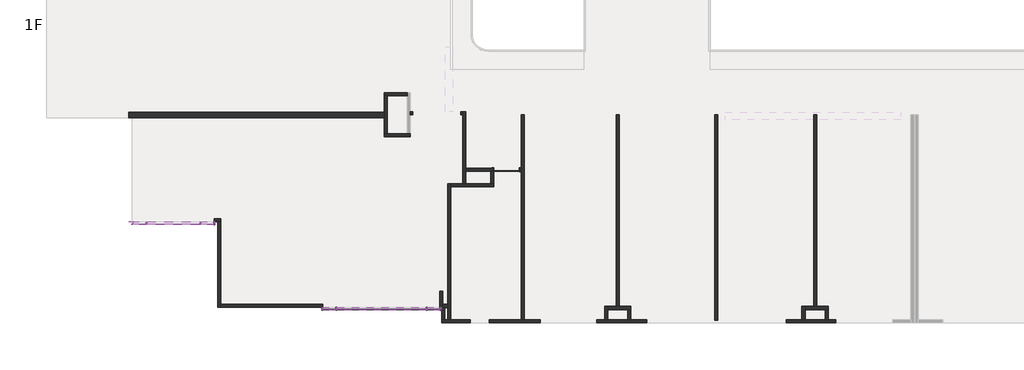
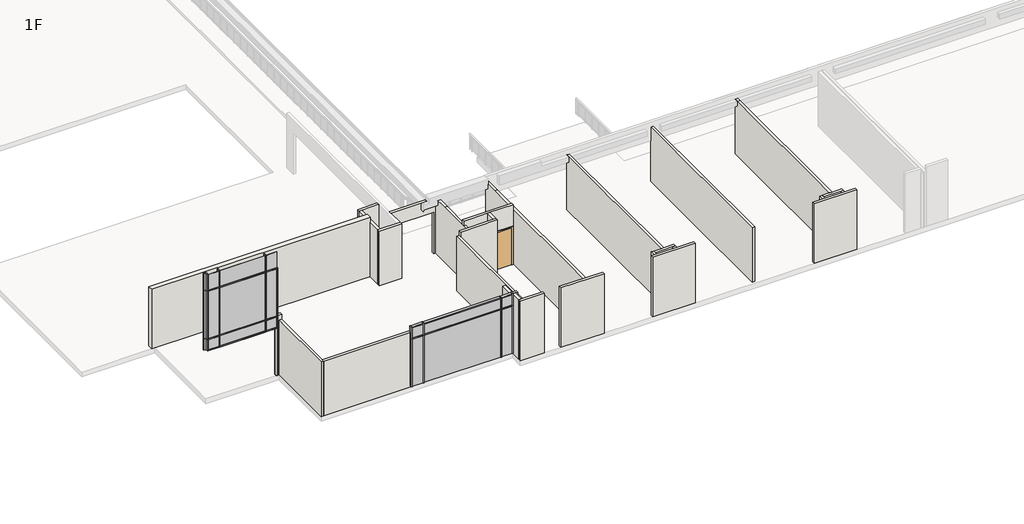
# One storey, part 1 of 5: 37 members, 30 walls, 15 plates, 1 door.
"""IFC4 building model written with IfcOpenShell, lengths in millimetres."""

from ifc_helpers import new_model, si_unit, frame, origin, place, context, project, spatial, polyline, outline, extrude, faceted_brep, transform, mapped, element, save
from components import m_single_flush_d_1200x2150_085a39eb, rectangular_mullion_50_x_150mm_64d38db8, rectangular_mullion_50_x_150mm_68b3818a, rectangular_mullion_50_x_150mm_8786dd09, rectangular_mullion_50_x_150mm_9e0f1e24, rectangular_mullion_50_x_150mm_dbb82e9e, rectangular_mullion_50_x_150mm_b34d1ea9, rectangular_mullion_50_x_150mm_7d543e93, rectangular_mullion_50_x_150mm_edc7ebc1, rectangular_mullion_50_x_150mm_d11e3bb4, rectangular_mullion_50_x_150mm_32aaa733, rectangular_mullion_50_x_150mm_9b8962c0, rectangular_mullion_50_x_150mm_fb6851b2, rectangular_mullion_50_x_150mm_567c0dda, rectangular_mullion_50_x_150mm_bb797b61, v_corner_mullion_v_mullion_1_ba732962, v_corner_mullion_v_mullion_1_1f1fc5c4, v_corner_mullion_v_mullion_1_634ccf5c, system_panel_glazed_24812111, system_panel_glazed_e5239730, system_panel_glazed_6b022301, system_panel_glazed_c925beaf, system_panel_glazed_5b8ccad9, system_panel_glazed_52ea2533, system_panel_glazed_5e053889, system_panel_glazed_b1764f6f

model = new_model("IFC4")

# Units and contexts
model_context = context("Model", 3, world=origin())
ifc_project = project(units=[si_unit("LENGTHUNIT", "METRE", prefix="MILLI")], contexts=[model_context])

# Site, building, storey
site = spatial("IfcSite", under=ifc_project)
building = spatial("IfcBuilding", under=site)
storey = spatial("IfcBuildingStorey", under=building, Name="1F", Elevation=4650.0)

# Door
placement = place(None, origin())
m_single_flush_d_1200x2150_shape = m_single_flush_d_1200x2150_085a39eb(model_context)
element("IfcDoor", 1, ObjectType="M_Single-Flush : D-1200x2150", at=placement, inside=storey, context=model_context, shape_type="MappedRepresentation", body=[
    mapped(m_single_flush_d_1200x2150_shape, transform((-18037.5865899, -18671.6148653, 4650.0), x_axis=(1.0, 0.0, 0.0), y_axis=(0.0, 1.0, 0.0), z_axis=(0.0, 0.0, 1.0))),
])

# Members
rectangular_mullion_50_x_150mm_shape = rectangular_mullion_50_x_150mm_64d38db8(model_context)
element("IfcMember", 2, ObjectType="Rectangular Mullion : 50 x 150mm", at=placement, inside=storey, context=model_context, shape_type="MappedRepresentation", body=[
    mapped(rectangular_mullion_50_x_150mm_shape, transform((-26627.5865899, -25172.6148653, 8200.0), x_axis=(0.0, 0.0, 1.0), y_axis=(0.0, 1.0, 0.0), z_axis=(-1.0, 0.0, 0.0))),
])
element("IfcMember", 3, ObjectType="Rectangular Mullion : 50 x 150mm", at=placement, inside=storey, context=model_context, shape_type="MappedRepresentation", body=[
    mapped(rectangular_mullion_50_x_150mm_shape, transform((-21742.5865899, -25172.6148653, 8200.0), x_axis=(0.0, 0.0, 1.0), y_axis=(0.0, 1.0, 0.0), z_axis=(-1.0, 0.0, 0.0))),
])
rectangular_mullion_50_x_150mm_2_shape = rectangular_mullion_50_x_150mm_68b3818a(model_context)
element("IfcMember", 4, ObjectType="Rectangular Mullion : 50 x 150mm", at=placement, inside=storey, context=model_context, shape_type="MappedRepresentation", body=[
    mapped(rectangular_mullion_50_x_150mm_2_shape, transform((-32337.5865899, -21172.6148653, 10975.0), x_axis=(0.0, 0.0, 1.0), y_axis=(0.0, 1.0, 0.0), z_axis=(-1.0, 0.0, 0.0))),
])
element("IfcMember", 5, ObjectType="Rectangular Mullion : 50 x 150mm", at=placement, inside=storey, context=model_context, shape_type="MappedRepresentation", body=[
    mapped(rectangular_mullion_50_x_150mm_2_shape, transform((-35512.5865899, -21172.6148653, 10975.0), x_axis=(0.0, 0.0, 1.0), y_axis=(0.0, 1.0, 0.0), z_axis=(-1.0, 0.0, 0.0))),
])
element("IfcMember", 6, ObjectType="Rectangular Mullion : 50 x 150mm", at=placement, inside=storey, context=model_context, shape_type="MappedRepresentation", body=[
    mapped(rectangular_mullion_50_x_150mm_2_shape, transform((-32337.5865899, -21172.6148653, 8175.0), x_axis=(0.0, 0.0, 1.0), y_axis=(0.0, 1.0, 0.0), z_axis=(-1.0, 0.0, 0.0))),
])
element("IfcMember", 7, ObjectType="Rectangular Mullion : 50 x 150mm", at=placement, inside=storey, context=model_context, shape_type="MappedRepresentation", body=[
    mapped(rectangular_mullion_50_x_150mm_2_shape, transform((-35512.5865899, -21172.6148653, 8175.0), x_axis=(0.0, 0.0, 1.0), y_axis=(0.0, 1.0, 0.0), z_axis=(-1.0, 0.0, 0.0))),
])
element("IfcMember", 8, ObjectType="Rectangular Mullion : 50 x 150mm", at=placement, inside=storey, context=model_context, shape_type="MappedRepresentation", body=[
    mapped(rectangular_mullion_50_x_150mm_2_shape, transform((-32337.5865899, -21172.6148653, 7525.0), x_axis=(0.0, 0.0, 1.0), y_axis=(0.0, 1.0, 0.0), z_axis=(-1.0, 0.0, 0.0))),
])
element("IfcMember", 9, ObjectType="Rectangular Mullion : 50 x 150mm", at=placement, inside=storey, context=model_context, shape_type="MappedRepresentation", body=[
    mapped(rectangular_mullion_50_x_150mm_2_shape, transform((-35512.5865899, -21172.6148653, 7525.0), x_axis=(0.0, 0.0, 1.0), y_axis=(0.0, 1.0, 0.0), z_axis=(-1.0, 0.0, 0.0))),
])
element("IfcMember", 10, ObjectType="Rectangular Mullion : 50 x 150mm", at=placement, inside=storey, context=model_context, shape_type="MappedRepresentation", body=[
    mapped(rectangular_mullion_50_x_150mm_2_shape, transform((-21742.5865899, -25172.6148653, 7525.0), x_axis=(0.0, 0.0, 1.0), y_axis=(0.0, 1.0, 0.0), z_axis=(-1.0, 0.0, 0.0))),
])
element("IfcMember", 11, ObjectType="Rectangular Mullion : 50 x 150mm", at=placement, inside=storey, context=model_context, shape_type="MappedRepresentation", body=[
    mapped(rectangular_mullion_50_x_150mm_2_shape, transform((-26627.5865899, -25172.6148653, 7525.0), x_axis=(0.0, 0.0, 1.0), y_axis=(0.0, 1.0, 0.0), z_axis=(-1.0, 0.0, 0.0))),
])
rectangular_mullion_50_x_150mm_3_shape = rectangular_mullion_50_x_150mm_8786dd09(model_context)
element("IfcMember", 12, ObjectType="Rectangular Mullion : 50 x 150mm", at=placement, inside=storey, context=model_context, shape_type="MappedRepresentation", body=[
    mapped(rectangular_mullion_50_x_150mm_3_shape, transform((-25977.5865899, -25172.6148653, 7525.0), x_axis=(0.0, 0.0, 1.0), y_axis=(0.0, 1.0, 0.0), z_axis=(-1.0, 0.0, 0.0))),
])
rectangular_mullion_50_x_150mm_4_shape = rectangular_mullion_50_x_150mm_9e0f1e24(model_context)
element("IfcMember", 13, ObjectType="Rectangular Mullion : 50 x 150mm", at=placement, inside=storey, context=model_context, shape_type="MappedRepresentation", body=[
    mapped(rectangular_mullion_50_x_150mm_4_shape, transform((-26652.5865899, -25172.6148653, 7525.0), x_axis=(-1.0, 0.0, 0.0), y_axis=(0.0, 1.0, 0.0), z_axis=(0.0, 0.0, -1.0))),
])
element("IfcMember", 14, ObjectType="Rectangular Mullion : 50 x 150mm", at=placement, inside=storey, context=model_context, shape_type="MappedRepresentation", body=[
    mapped(rectangular_mullion_50_x_150mm_4_shape, transform((-26002.5865899, -25172.6148653, 7525.0), x_axis=(-1.0, 0.0, 0.0), y_axis=(0.0, 1.0, 0.0), z_axis=(0.0, 0.0, -1.0))),
])
element("IfcMember", 15, ObjectType="Rectangular Mullion : 50 x 150mm", at=placement, inside=storey, context=model_context, shape_type="MappedRepresentation", body=[
    mapped(rectangular_mullion_50_x_150mm_4_shape, transform((-21767.5865899, -25172.6148653, 7525.0), x_axis=(-1.0, 0.0, 0.0), y_axis=(0.0, 1.0, 0.0), z_axis=(0.0, 0.0, -1.0))),
])
rectangular_mullion_50_x_150mm_5_shape = rectangular_mullion_50_x_150mm_dbb82e9e(model_context)
element("IfcMember", 16, ObjectType="Rectangular Mullion : 50 x 150mm", at=placement, inside=storey, context=model_context, shape_type="MappedRepresentation", body=[
    mapped(rectangular_mullion_50_x_150mm_5_shape, transform((-21092.5865899, -25172.6148653, 8200.0), x_axis=(1.0, 0.0, 0.0), y_axis=(0.0, 1.0, 0.0), z_axis=(0.0, 0.0, 1.0))),
])
rectangular_mullion_50_x_150mm_6_shape = rectangular_mullion_50_x_150mm_b34d1ea9(model_context)
element("IfcMember", 17, ObjectType="Rectangular Mullion : 50 x 150mm", at=placement, inside=storey, context=model_context, shape_type="MappedRepresentation", body=[
    mapped(rectangular_mullion_50_x_150mm_6_shape, transform((-25977.5865899, -25172.6148653, 8200.0), x_axis=(0.0, 0.0, 1.0), y_axis=(0.0, 1.0, 0.0), z_axis=(-1.0, 0.0, 0.0))),
])
rectangular_mullion_50_x_150mm_7_shape = rectangular_mullion_50_x_150mm_7d543e93(model_context)
element("IfcMember", 18, ObjectType="Rectangular Mullion : 50 x 150mm", at=placement, inside=storey, context=model_context, shape_type="MappedRepresentation", body=[
    mapped(rectangular_mullion_50_x_150mm_7_shape, transform((-32362.5865899, -21172.6148653, 7525.0), x_axis=(-1.0, 0.0, 0.0), y_axis=(0.0, 1.0, 0.0), z_axis=(0.0, 0.0, -1.0))),
])
element("IfcMember", 19, ObjectType="Rectangular Mullion : 50 x 150mm", at=placement, inside=storey, context=model_context, shape_type="MappedRepresentation", body=[
    mapped(rectangular_mullion_50_x_150mm_7_shape, transform((-34887.5865899, -21172.6148653, 7525.0), x_axis=(-1.0, 0.0, 0.0), y_axis=(0.0, 1.0, 0.0), z_axis=(0.0, 0.0, -1.0))),
])
rectangular_mullion_50_x_150mm_8_shape = rectangular_mullion_50_x_150mm_edc7ebc1(model_context)
element("IfcMember", 20, ObjectType="Rectangular Mullion : 50 x 150mm", at=placement, inside=storey, context=model_context, shape_type="MappedRepresentation", body=[
    mapped(rectangular_mullion_50_x_150mm_8_shape, transform((-34862.5865899, -21172.6148653, 10975.0), x_axis=(0.0, 0.0, 1.0), y_axis=(0.0, 1.0, 0.0), z_axis=(-1.0, 0.0, 0.0))),
])
element("IfcMember", 21, ObjectType="Rectangular Mullion : 50 x 150mm", at=placement, inside=storey, context=model_context, shape_type="MappedRepresentation", body=[
    mapped(rectangular_mullion_50_x_150mm_8_shape, transform((-34862.5865899, -21172.6148653, 8175.0), x_axis=(0.0, 0.0, 1.0), y_axis=(0.0, 1.0, 0.0), z_axis=(-1.0, 0.0, 0.0))),
])
element("IfcMember", 22, ObjectType="Rectangular Mullion : 50 x 150mm", at=placement, inside=storey, context=model_context, shape_type="MappedRepresentation", body=[
    mapped(rectangular_mullion_50_x_150mm_8_shape, transform((-34862.5865899, -21172.6148653, 7525.0), x_axis=(0.0, 0.0, 1.0), y_axis=(0.0, 1.0, 0.0), z_axis=(-1.0, 0.0, 0.0))),
])
rectangular_mullion_50_x_150mm_9_shape = rectangular_mullion_50_x_150mm_d11e3bb4(model_context)
element("IfcMember", 23, ObjectType="Rectangular Mullion : 50 x 150mm", at=placement, inside=storey, context=model_context, shape_type="MappedRepresentation", body=[
    mapped(rectangular_mullion_50_x_150mm_9_shape, transform((-32362.5865899, -21172.6148653, 8175.0), x_axis=(-1.0, 0.0, 0.0), y_axis=(0.0, 1.0, 0.0), z_axis=(0.0, 0.0, -1.0))),
])
element("IfcMember", 24, ObjectType="Rectangular Mullion : 50 x 150mm", at=placement, inside=storey, context=model_context, shape_type="MappedRepresentation", body=[
    mapped(rectangular_mullion_50_x_150mm_9_shape, transform((-34887.5865899, -21172.6148653, 8175.0), x_axis=(-1.0, 0.0, 0.0), y_axis=(0.0, 1.0, 0.0), z_axis=(0.0, 0.0, -1.0))),
])
rectangular_mullion_50_x_150mm_10_shape = rectangular_mullion_50_x_150mm_32aaa733(model_context)
element("IfcMember", 25, ObjectType="Rectangular Mullion : 50 x 150mm", at=placement, inside=storey, context=model_context, shape_type="MappedRepresentation", body=[
    mapped(rectangular_mullion_50_x_150mm_10_shape, transform((-31687.5865899, -21172.6148653, 10975.0), x_axis=(1.0, 0.0, 0.0), y_axis=(0.0, 1.0, 0.0), z_axis=(0.0, 0.0, 1.0))),
])
rectangular_mullion_50_x_150mm_11_shape = rectangular_mullion_50_x_150mm_9b8962c0(model_context)
element("IfcMember", 26, ObjectType="Rectangular Mullion : 50 x 150mm", at=placement, inside=storey, context=model_context, shape_type="MappedRepresentation", body=[
    mapped(rectangular_mullion_50_x_150mm_11_shape, transform((-31687.5865899, -21172.6148653, 8175.0), x_axis=(1.0, 0.0, 0.0), y_axis=(0.0, 1.0, 0.0), z_axis=(0.0, 0.0, 1.0))),
])
rectangular_mullion_50_x_150mm_12_shape = rectangular_mullion_50_x_150mm_fb6851b2(model_context)
element("IfcMember", 27, ObjectType="Rectangular Mullion : 50 x 150mm", at=placement, inside=storey, context=model_context, shape_type="MappedRepresentation", body=[
    mapped(rectangular_mullion_50_x_150mm_12_shape, transform((-31687.5865899, -21172.6148653, 7525.0), x_axis=(1.0, 0.0, 0.0), y_axis=(0.0, 1.0, 0.0), z_axis=(0.0, 0.0, 1.0))),
])
rectangular_mullion_50_x_150mm_13_shape = rectangular_mullion_50_x_150mm_567c0dda(model_context)
element("IfcMember", 28, ObjectType="Rectangular Mullion : 50 x 150mm", at=placement, inside=storey, context=model_context, shape_type="MappedRepresentation", body=[
    mapped(rectangular_mullion_50_x_150mm_13_shape, transform((-26652.5865899, -25172.6148653, 4750.0), x_axis=(-1.0, 0.0, 0.0), y_axis=(0.0, 1.0, 0.0), z_axis=(0.0, 0.0, -1.0))),
])
element("IfcMember", 29, ObjectType="Rectangular Mullion : 50 x 150mm", at=placement, inside=storey, context=model_context, shape_type="MappedRepresentation", body=[
    mapped(rectangular_mullion_50_x_150mm_13_shape, transform((-26002.5865899, -25172.6148653, 4750.0), x_axis=(-1.0, 0.0, 0.0), y_axis=(0.0, 1.0, 0.0), z_axis=(0.0, 0.0, -1.0))),
])
element("IfcMember", 30, ObjectType="Rectangular Mullion : 50 x 150mm", at=placement, inside=storey, context=model_context, shape_type="MappedRepresentation", body=[
    mapped(rectangular_mullion_50_x_150mm_13_shape, transform((-21767.5865899, -25172.6148653, 4750.0), x_axis=(-1.0, 0.0, 0.0), y_axis=(0.0, 1.0, 0.0), z_axis=(0.0, 0.0, -1.0))),
])
element("IfcMember", 31, ObjectType="Rectangular Mullion : 50 x 150mm", at=placement, inside=storey, context=model_context, shape_type="MappedRepresentation", body=[
    mapped(rectangular_mullion_50_x_150mm_12_shape, transform((-26677.5865899, -25172.6148653, 4750.0), x_axis=(-1.0, 0.0, 0.0), y_axis=(0.0, 1.0, 0.0), z_axis=(0.0, 0.0, -1.0))),
])
element("IfcMember", 32, ObjectType="Rectangular Mullion : 50 x 150mm", at=placement, inside=storey, context=model_context, shape_type="MappedRepresentation", body=[
    mapped(rectangular_mullion_50_x_150mm_5_shape, transform((-26677.5865899, -25172.6148653, 7525.0), x_axis=(-1.0, 0.0, 0.0), y_axis=(0.0, 1.0, 0.0), z_axis=(0.0, 0.0, -1.0))),
])
element("IfcMember", 33, ObjectType="Rectangular Mullion : 50 x 150mm", at=placement, inside=storey, context=model_context, shape_type="MappedRepresentation", body=[
    mapped(rectangular_mullion_50_x_150mm_12_shape, transform((-21092.5865899, -25172.6148653, 7525.0), x_axis=(1.0, 0.0, 0.0), y_axis=(0.0, 1.0, 0.0), z_axis=(0.0, 0.0, 1.0))),
])
rectangular_mullion_50_x_150mm_14_shape = rectangular_mullion_50_x_150mm_bb797b61(model_context)
element("IfcMember", 34, ObjectType="Rectangular Mullion : 50 x 150mm", at=placement, inside=storey, context=model_context, shape_type="MappedRepresentation", body=[
    mapped(rectangular_mullion_50_x_150mm_14_shape, transform((-32362.5865899, -21172.6148653, 10975.0), x_axis=(-1.0, 0.0, 0.0), y_axis=(0.0, 1.0, 0.0), z_axis=(0.0, 0.0, -1.0))),
])
element("IfcMember", 35, ObjectType="Rectangular Mullion : 50 x 150mm", at=placement, inside=storey, context=model_context, shape_type="MappedRepresentation", body=[
    mapped(rectangular_mullion_50_x_150mm_14_shape, transform((-34887.5865899, -21172.6148653, 10975.0), x_axis=(-1.0, 0.0, 0.0), y_axis=(0.0, 1.0, 0.0), z_axis=(0.0, 0.0, -1.0))),
])
v_corner_mullion_v_mullion_1_shape = v_corner_mullion_v_mullion_1_ba732962(model_context)
element("IfcMember", 36, ObjectType="V Corner Mullion : V Mullion 1", at=placement, inside=storey, context=model_context, shape_type="MappedRepresentation", body=[
    mapped(v_corner_mullion_v_mullion_1_shape, transform((-35612.5865899, -21172.6148653, 7525.0), x_axis=(-1.0, 0.0, 0.0), y_axis=(0.0, 1.0, 0.0), z_axis=(0.0, 0.0, -1.0))),
])
v_corner_mullion_v_mullion_1_2_shape = v_corner_mullion_v_mullion_1_1f1fc5c4(model_context)
element("IfcMember", 37, ObjectType="V Corner Mullion : V Mullion 1", at=placement, inside=storey, context=model_context, shape_type="MappedRepresentation", body=[
    mapped(v_corner_mullion_v_mullion_1_2_shape, transform((-35612.5865899, -21172.6148653, 8175.0), x_axis=(-1.0, 0.0, 0.0), y_axis=(0.0, 1.0, 0.0), z_axis=(0.0, 0.0, -1.0))),
])
v_corner_mullion_v_mullion_1_3_shape = v_corner_mullion_v_mullion_1_634ccf5c(model_context)
element("IfcMember", 38, ObjectType="V Corner Mullion : V Mullion 1", at=placement, inside=storey, context=model_context, shape_type="MappedRepresentation", body=[
    mapped(v_corner_mullion_v_mullion_1_3_shape, transform((-35612.5865899, -21172.6148653, 10975.0), x_axis=(-1.0, 0.0, 0.0), y_axis=(0.0, 1.0, 0.0), z_axis=(0.0, 0.0, -1.0))),
])

# Plates
system_panel_glazed_shape = system_panel_glazed_24812111(model_context)
element("IfcPlate", 39, ObjectType="System Panel : Glazed", at=placement, inside=storey, context=model_context, shape_type="MappedRepresentation", body=[
    mapped(system_panel_glazed_shape, transform((-21442.5865899, -25172.6148653, 7550.0), x_axis=(-1.0, 0.0, 0.0), y_axis=(0.0, -1.0, 0.0), z_axis=(0.0, 0.0, 1.0))),
])
element("IfcPlate", 40, ObjectType="System Panel : Glazed", at=placement, inside=storey, context=model_context, shape_type="MappedRepresentation", body=[
    mapped(system_panel_glazed_shape, transform((-26327.5865899, -25172.6148653, 7550.0), x_axis=(-1.0, 0.0, 0.0), y_axis=(0.0, -1.0, 0.0), z_axis=(0.0, 0.0, 1.0))),
])
element("IfcPlate", 41, ObjectType="System Panel : Glazed", at=placement, inside=storey, context=model_context, shape_type="MappedRepresentation", body=[
    mapped(system_panel_glazed_shape, transform((-32037.5865899, -21172.6148653, 7550.0), x_axis=(-1.0, 0.0, 0.0), y_axis=(0.0, -1.0, 0.0), z_axis=(0.0, 0.0, 1.0))),
])
element("IfcPlate", 42, ObjectType="System Panel : Glazed", at=placement, inside=storey, context=model_context, shape_type="MappedRepresentation", body=[
    mapped(system_panel_glazed_shape, transform((-35212.5865899, -21172.6148653, 7550.0), x_axis=(-1.0, 0.0, 0.0), y_axis=(0.0, -1.0, 0.0), z_axis=(0.0, 0.0, 1.0))),
])
system_panel_glazed_2_shape = system_panel_glazed_e5239730(model_context)
element("IfcPlate", 43, ObjectType="System Panel : Glazed", at=placement, inside=storey, context=model_context, shape_type="MappedRepresentation", body=[
    mapped(system_panel_glazed_2_shape, transform((-21442.5865899, -25172.6148653, 4750.0), x_axis=(-1.0, 0.0, 0.0), y_axis=(0.0, -1.0, 0.0), z_axis=(0.0, 0.0, 1.0))),
])
element("IfcPlate", 44, ObjectType="System Panel : Glazed", at=placement, inside=storey, context=model_context, shape_type="MappedRepresentation", body=[
    mapped(system_panel_glazed_2_shape, transform((-26327.5865899, -25172.6148653, 4750.0), x_axis=(-1.0, 0.0, 0.0), y_axis=(0.0, -1.0, 0.0), z_axis=(0.0, 0.0, 1.0))),
])
element("IfcPlate", 45, ObjectType="System Panel : Glazed", at=placement, inside=storey, context=model_context, shape_type="MappedRepresentation", body=[
    mapped(system_panel_glazed_2_shape, transform((-32037.5865899, -21172.6148653, 8200.0), x_axis=(-1.0, 0.0, 0.0), y_axis=(0.0, -1.0, 0.0), z_axis=(0.0, 0.0, 1.0))),
])
element("IfcPlate", 46, ObjectType="System Panel : Glazed", at=placement, inside=storey, context=model_context, shape_type="MappedRepresentation", body=[
    mapped(system_panel_glazed_2_shape, transform((-35212.5865899, -21172.6148653, 8200.0), x_axis=(-1.0, 0.0, 0.0), y_axis=(0.0, -1.0, 0.0), z_axis=(0.0, 0.0, 1.0))),
])
system_panel_glazed_3_shape = system_panel_glazed_6b022301(model_context)
element("IfcPlate", 47, ObjectType="System Panel : Glazed", at=placement, inside=storey, context=model_context, shape_type="MappedRepresentation", body=[
    mapped(system_panel_glazed_3_shape, transform((-33625.0865899, -21172.6148653, 7550.0), x_axis=(-1.0, 0.0, 0.0), y_axis=(0.0, -1.0, 0.0), z_axis=(0.0, 0.0, 1.0))),
])
system_panel_glazed_4_shape = system_panel_glazed_c925beaf(model_context)
element("IfcPlate", 48, ObjectType="System Panel : Glazed", at=placement, inside=storey, context=model_context, shape_type="MappedRepresentation", body=[
    mapped(system_panel_glazed_4_shape, transform((-33625.0865899, -21172.6148653, 8200.0), x_axis=(-1.0, 0.0, 0.0), y_axis=(0.0, -1.0, 0.0), z_axis=(0.0, 0.0, 1.0))),
])
system_panel_glazed_5_shape = system_panel_glazed_5b8ccad9(model_context)
element("IfcPlate", 49, ObjectType="System Panel : Glazed", at=placement, inside=storey, context=model_context, shape_type="MappedRepresentation", body=[
    mapped(system_panel_glazed_5_shape, transform((-23885.0865899, -25172.6148653, 7550.0), x_axis=(-1.0, 0.0, 0.0), y_axis=(0.0, -1.0, 0.0), z_axis=(0.0, 0.0, 1.0))),
])
system_panel_glazed_6_shape = system_panel_glazed_52ea2533(model_context)
element("IfcPlate", 50, ObjectType="System Panel : Glazed", at=placement, inside=storey, context=model_context, shape_type="MappedRepresentation", body=[
    mapped(system_panel_glazed_6_shape, transform((-23885.0865899, -25172.6148653, 4750.0), x_axis=(-1.0, 0.0, 0.0), y_axis=(0.0, -1.0, 0.0), z_axis=(0.0, 0.0, 1.0))),
])
system_panel_glazed_7_shape = system_panel_glazed_5e053889(model_context)
element("IfcPlate", 51, ObjectType="System Panel : Glazed", at=placement, inside=storey, context=model_context, shape_type="MappedRepresentation", body=[
    mapped(system_panel_glazed_7_shape, transform((-32037.5865899, -21172.6148653, 11000.0), x_axis=(-1.0, 0.0, 0.0), y_axis=(0.0, -1.0, 0.0), z_axis=(0.0, 0.0, 1.0))),
])
element("IfcPlate", 52, ObjectType="System Panel : Glazed", at=placement, inside=storey, context=model_context, shape_type="MappedRepresentation", body=[
    mapped(system_panel_glazed_7_shape, transform((-35212.5865899, -21172.6148653, 11000.0), x_axis=(-1.0, 0.0, 0.0), y_axis=(0.0, -1.0, 0.0), z_axis=(0.0, 0.0, 1.0))),
])
system_panel_glazed_8_shape = system_panel_glazed_b1764f6f(model_context)
element("IfcPlate", 53, ObjectType="System Panel : Glazed", at=placement, inside=storey, context=model_context, shape_type="MappedRepresentation", body=[
    mapped(system_panel_glazed_8_shape, transform((-33625.0865899, -21172.6148653, 11000.0), x_axis=(-1.0, 0.0, 0.0), y_axis=(0.0, -1.0, 0.0), z_axis=(0.0, 0.0, 1.0))),
])

# Walls
element("IfcWall", 54, ObjectType="wall-115", at=placement, inside=storey, context=model_context, shape_type="Brep", body=[
    faceted_brep([(-4065.5865899, -25692.6148653, 4650.0), (-4065.5865899, -25204.6148653, 4650.0), (-4065.5865899, -25062.6148653, 4650.0), (-4065.5865899, -25062.6148653, 7825.0), (-4065.5865899, -25204.6148653, 7825.0), (-4065.5865899, -25692.6148653, 7825.0), (-4207.5865899, -25692.6148653, 4650.0), (-4207.5865899, -25692.6148653, 7825.0), (-4207.5865899, -25062.6148653, 7825.0), (-4207.5865899, -25062.6148653, 4650.0)], [[[0, 1, 2, 3, 4, 5]], [[6, 7, 8, 9]], [[2, 1, 0, 6, 9]], [[3, 2, 9, 8]], [[0, 5, 7, 6]], [[5, 4, 3, 8, 7]]]),
])
element("IfcWall", 55, ObjectType="wall-115", at=placement, inside=storey, context=model_context, shape_type="Brep", body=[
    faceted_brep([(-4065.5865899, -25204.6148653, 4650.0), (-3119.5865899, -25204.6148653, 4650.0), (-2977.5865899, -25204.6148653, 4650.0), (-2977.5865899, -25204.6148653, 7825.0), (-3119.5865899, -25204.6148653, 7825.0), (-4065.5865899, -25204.6148653, 7825.0), (-4065.5865899, -25062.6148653, 4650.0), (-4065.5865899, -25062.6148653, 7825.0), (-3665.0865899, -25062.6148653, 7825.0), (-3523.0865899, -25062.6148653, 7825.0), (-2977.5865899, -25062.6148653, 7825.0), (-2977.5865899, -25062.6148653, 4650.0), (-3523.0865899, -25062.6148653, 4650.0), (-3665.0865899, -25062.6148653, 4650.0)], [[[0, 1, 2, 3, 4, 5]], [[6, 7, 8, 9, 10, 11, 12, 13]], [[2, 1, 0, 6, 13, 12, 11]], [[0, 5, 7, 6]], [[3, 2, 11, 10]], [[5, 4, 3, 10, 9, 8, 7]]]),
])
element("IfcWall", 56, ObjectType="wall-115", at=placement, inside=storey, context=model_context, shape_type="SweptSolid", body=[
    extrude(outline(polyline([(-3119.5865899, -25692.6148653), (-3119.5865899, -25204.6148653), (-2977.5865899, -25204.6148653), (-2977.5865899, -25692.6148653), (-3119.5865899, -25692.6148653)])), frame((0.0, 0.0, 4650.0), z_axis=(0.0, 0.0, 1.0), x_axis=(1.0, 0.0, 0.0)), (0.0, 0.0, 1.0), 3175.0),
])
element("IfcWall", 57, ObjectType="wall-115", at=placement, inside=storey, context=model_context, shape_type="SweptSolid", body=[
    extrude(outline(polyline([(-3523.0865899, -16102.6148653), (-3523.0865899, -25062.6148653), (-3665.0865899, -25062.6148653), (-3665.0865899, -16102.6148653), (-3523.0865899, -16102.6148653)])), frame((0.0, 0.0, 4650.0), z_axis=(0.0, 0.0, 1.0), x_axis=(1.0, 0.0, 0.0)), (0.0, 0.0, 1.0), 3175.0),
])
element("IfcWall", 58, ObjectType="wall-115", at=placement, inside=storey, context=model_context, shape_type="SweptSolid", body=[
    extrude(outline(polyline([(-8138.0865899, -16102.6148653), (-8138.0865899, -25707.6148653), (-8280.0865899, -25707.6148653), (-8280.0865899, -16102.6148653), (-8138.0865899, -16102.6148653)])), frame((0.0, 0.0, 4650.0), z_axis=(0.0, 0.0, 1.0), x_axis=(1.0, 0.0, 0.0)), (0.0, 0.0, 1.0), 3175.0),
])
element("IfcWall", 59, ObjectType="wall-115", at=placement, inside=storey, context=model_context, shape_type="SweptSolid", body=[
    extrude(outline(polyline([(-12753.0865899, -16102.6148653), (-12753.0865899, -25062.6148653), (-12895.0865899, -25062.6148653), (-12895.0865899, -16102.6148653), (-12753.0865899, -16102.6148653)])), frame((0.0, 0.0, 4650.0), z_axis=(0.0, 0.0, 1.0), x_axis=(1.0, 0.0, 0.0)), (0.0, 0.0, 1.0), 3175.0),
])
element("IfcWall", 60, ObjectType="wall-115", at=placement, inside=storey, context=model_context, shape_type="Brep", body=[
    faceted_brep([(-17192.5865899, -25692.6148653, 4650.0), (-17192.5865899, -16102.6148653, 4650.0), (-17192.5865899, -16102.6148653, 7825.0), (-17192.5865899, -16960.6148653, 7825.0), (-17192.5865899, -25692.6148653, 7825.0), (-17334.5865899, -25692.6148653, 4650.0), (-17334.5865899, -25692.6148653, 7825.0), (-17334.5865899, -16960.6148653, 7825.0), (-17334.5865899, -16102.6148653, 7825.0), (-17334.5865899, -16102.6148653, 7050.0), (-17334.5865899, -16102.6148653, 4650.0), (-17334.5865899, -18600.6148653, 4650.0), (-17334.5865899, -18742.6148653, 4650.0)], [[[0, 1, 2, 3, 4]], [[5, 6, 7, 8, 9, 10, 11, 12]], [[1, 0, 5, 12, 11, 10]], [[2, 1, 10, 9, 8]], [[0, 4, 6, 5]], [[3, 2, 8, 7]], [[4, 3, 7, 6]]]),
])
element("IfcWall", 61, ObjectType="wall-115", at=placement, inside=storey, context=model_context, shape_type="Brep", body=[
    faceted_brep([(-20782.5865899, -19312.6148653, 4650.0), (-20782.5865899, -24969.1148653, 4650.0), (-20782.5865899, -25111.1148653, 4650.0), (-20782.5865899, -25692.6148653, 4650.0), (-20782.5865899, -25692.6148653, 7825.0), (-20782.5865899, -19312.6148653, 7825.0), (-20640.5865899, -19312.6148653, 4650.0), (-20640.5865899, -19312.6148653, 7825.0), (-20640.5865899, -25692.6148653, 7825.0), (-20640.5865899, -25692.6148653, 4650.0), (-20640.5865899, -19454.6148653, 4650.0)], [[[0, 1, 2, 3, 4, 5]], [[6, 7, 8, 9, 10]], [[3, 2, 1, 0, 6, 10, 9]], [[0, 5, 7, 6]], [[4, 3, 9, 8]], [[5, 4, 8, 7]]]),
])
element("IfcWall", 62, ObjectType="wall-115", at=placement, inside=storey, context=model_context, shape_type="Brep", body=[
    faceted_brep([(-22667.5865898, -15057.6310718, 4650.0), (-23747.5865898, -15057.6310718, 4650.0), (-23747.5865898, -15057.6310718, 7825.0), (-22667.5865898, -15057.6310718, 7825.0), (-22667.5865898, -15199.6310718, 4650.0), (-22667.5865898, -15199.6310718, 7825.0), (-23605.5865898, -15199.6310718, 7825.0), (-23747.5865898, -15199.6310718, 7825.0), (-23747.5865898, -15199.6310718, 4650.0), (-23605.5865898, -15199.6310718, 4650.0), (-22667.5865898, -15072.6310718, 4650.0)], [[[0, 1, 2, 3]], [[4, 5, 6, 7, 8, 9]], [[1, 0, 10, 4, 9, 8]], [[2, 1, 8, 7]], [[0, 3, 5, 4, 10]], [[3, 2, 7, 6, 5]]]),
])
element("IfcWall", 63, ObjectType="wall-115", at=placement, inside=storey, context=model_context, shape_type="Brep", body=[
    faceted_brep([(-23747.5865898, -15199.6310718, 4650.0), (-23747.5865898, -15980.6148653, 4650.0), (-23747.5865898, -16237.6148653, 4650.0), (-23747.5865898, -16972.6148653, 4650.0), (-23747.5865898, -16972.6148653, 7825.0), (-23747.5865898, -15199.6310718, 7825.0), (-23605.5865898, -15199.6310718, 4650.0), (-23605.5865898, -15199.6310718, 7825.0), (-23605.5865898, -16972.6148653, 7825.0), (-23605.5865898, -16972.6148653, 4650.0)], [[[0, 1, 2, 3, 4, 5]], [[6, 7, 8, 9]], [[3, 2, 1, 0, 6, 9]], [[0, 5, 7, 6]], [[4, 3, 9, 8]], [[5, 4, 8, 7]]]),
])
element("IfcWall", 64, ObjectType="wall-115", at=placement, inside=storey, context=model_context, shape_type="Brep", body=[
    faceted_brep([(-22525.5865898, -16972.6148653, 4650.0), (-22667.5865898, -16972.6148653, 4650.0), (-23605.5865898, -16972.6148653, 4650.0), (-23747.5865898, -16972.6148653, 4650.0), (-23747.5865898, -16972.6148653, 7825.0), (-23605.5865898, -16972.6148653, 7825.0), (-22667.5865898, -16972.6148653, 7825.0), (-22525.5865898, -16972.6148653, 7825.0), (-22525.5865898, -17114.6148653, 4650.0), (-22525.5865898, -17114.6148653, 7825.0), (-23747.5865898, -17114.6148653, 7825.0), (-23747.5865898, -17114.6148653, 4650.0)], [[[0, 1, 2, 3, 4, 5, 6, 7]], [[8, 9, 10, 11]], [[3, 2, 1, 0, 8, 11]], [[4, 3, 11, 10]], [[0, 7, 9, 8]], [[7, 6, 5, 4, 10, 9]]]),
])
element("IfcWall", 65, ObjectType="wall-115", at=placement, inside=storey, context=model_context, shape_type="SweptSolid", body=[
    extrude(outline(polyline([(4650.0, -20082.5865899), (7825.0, -20082.5865899), (7825.0, -20551.0865899), (7825.0, -22525.5865898), (4650.0, -22525.5865898), (4650.0, -22422.5865899), (7050.0, -22422.5865899), (7050.0, -20182.5865899), (4650.0, -20182.5865899), (4650.0, -20082.5865899)])), frame((0.0, -16102.6148653, 0.0), z_axis=(0.0, 1.0, 0.0), x_axis=(0.0, 0.0, 1.0)), (0.0, 0.0, 1.0), 142.0),
])
element("IfcWall", 66, ObjectType="wall-115", at=placement, inside=storey, context=model_context, shape_type="Brep", body=[
    faceted_brep([(-31549.5865899, -21109.6148653, 4650.0), (-31549.5865899, -25109.6148653, 4650.0), (-31549.5865899, -25109.6148653, 7825.0), (-31549.5865899, -21112.6148653, 7825.0), (-31549.5865899, -21109.6148653, 7825.0), (-31407.5865899, -21109.6148653, 4650.0), (-31407.5865899, -21109.6148653, 7825.0), (-31407.5865899, -24967.6148653, 7825.0), (-31407.5865899, -25109.6148653, 7825.0), (-31407.5865899, -25109.6148653, 4650.0), (-31407.5865899, -24967.6148653, 4650.0)], [[[0, 1, 2, 3, 4]], [[5, 6, 7, 8, 9, 10]], [[1, 0, 5, 10, 9]], [[2, 1, 9, 8]], [[0, 4, 6, 5]], [[4, 3, 2, 8, 7, 6]]]),
])
element("IfcWall", 67, ObjectType="wall-115", at=placement, inside=storey, context=model_context, shape_type="SweptSolid", body=[
    extrude(outline(polyline([(-26627.5865899, -25109.6148653), (-31407.5865899, -25109.6148653), (-31407.5865899, -24967.6148653), (-26627.5865899, -24967.6148653), (-26627.5865899, -25109.6148653)])), frame((0.0, 0.0, 4650.0), z_axis=(0.0, 0.0, 1.0), x_axis=(1.0, 0.0, 0.0)), (0.0, 0.0, 1.0), 3175.0),
])
element("IfcWall", 68, ObjectType="wall-115", at=placement, inside=storey, context=model_context, shape_type="Brep", body=[
    faceted_brep([(-13295.5865899, -25692.6148653, 4650.0), (-13295.5865899, -25204.6148653, 4650.0), (-13295.5865899, -25062.6148653, 4650.0), (-13295.5865899, -25062.6148653, 7825.0), (-13295.5865899, -25204.6148653, 7825.0), (-13295.5865899, -25692.6148653, 7825.0), (-13437.5865899, -25692.6148653, 4650.0), (-13437.5865899, -25692.6148653, 7825.0), (-13437.5865899, -25062.6148653, 7825.0), (-13437.5865899, -25062.6148653, 4650.0)], [[[0, 1, 2, 3, 4, 5]], [[6, 7, 8, 9]], [[2, 1, 0, 6, 9]], [[3, 2, 9, 8]], [[0, 5, 7, 6]], [[5, 4, 3, 8, 7]]]),
])
element("IfcWall", 69, ObjectType="wall-115", at=placement, inside=storey, context=model_context, shape_type="Brep", body=[
    faceted_brep([(-13295.5865899, -25204.6148653, 4650.0), (-12349.5865899, -25204.6148653, 4650.0), (-12207.5865899, -25204.6148653, 4650.0), (-12207.5865899, -25204.6148653, 7825.0), (-12349.5865899, -25204.6148653, 7825.0), (-13295.5865899, -25204.6148653, 7825.0), (-13295.5865899, -25062.6148653, 4650.0), (-13295.5865899, -25062.6148653, 7825.0), (-12895.0865899, -25062.6148653, 7825.0), (-12753.0865899, -25062.6148653, 7825.0), (-12207.5865899, -25062.6148653, 7825.0), (-12207.5865899, -25062.6148653, 4650.0), (-12753.0865899, -25062.6148653, 4650.0), (-12895.0865899, -25062.6148653, 4650.0)], [[[0, 1, 2, 3, 4, 5]], [[6, 7, 8, 9, 10, 11, 12, 13]], [[2, 1, 0, 6, 13, 12, 11]], [[0, 5, 7, 6]], [[3, 2, 11, 10]], [[5, 4, 3, 10, 9, 8, 7]]]),
])
element("IfcWall", 70, ObjectType="wall-115", at=placement, inside=storey, context=model_context, shape_type="SweptSolid", body=[
    extrude(outline(polyline([(-12349.5865899, -25692.6148653), (-12349.5865899, -25204.6148653), (-12207.5865899, -25204.6148653), (-12207.5865899, -25692.6148653), (-12349.5865899, -25692.6148653)])), frame((0.0, 0.0, 4650.0), z_axis=(0.0, 0.0, 1.0), x_axis=(1.0, 0.0, 0.0)), (0.0, 0.0, 1.0), 3175.0),
])
element("IfcWall", 71, ObjectType="wall-115", at=placement, inside=storey, context=model_context, shape_type="Brep", body=[
    faceted_brep([(-20082.5865899, -15960.6148653, 4650.0), (-20082.5865899, -16102.6148653, 4650.0), (-20082.5865899, -19312.6148653, 4650.0), (-20082.5865899, -19312.6148653, 7825.0), (-20082.5865899, -16960.6148653, 7825.0), (-20082.5865899, -16102.6148653, 7825.0), (-20082.5865899, -15960.6148653, 7825.0), (-19940.5865899, -15960.6148653, 4650.0), (-19940.5865899, -15960.6148653, 7825.0), (-19940.5865899, -16960.6148653, 7825.0), (-19940.5865899, -18600.6148653, 7825.0), (-19940.5865899, -18742.6148653, 7825.0), (-19940.5865899, -19312.6148653, 7825.0), (-19940.5865899, -19312.6148653, 4650.0), (-19940.5865899, -18742.6148653, 4650.0), (-19940.5865899, -18600.6148653, 4650.0)], [[[0, 1, 2, 3, 4, 5, 6]], [[7, 8, 9, 10, 11, 12, 13, 14, 15]], [[2, 1, 0, 7, 15, 14, 13]], [[0, 6, 8, 7]], [[3, 2, 13, 12]], [[6, 5, 4, 9, 8]], [[4, 3, 12, 11, 10, 9]]]),
])
element("IfcWall", 72, ObjectType="wall-115", at=placement, inside=storey, context=model_context, shape_type="Brep", body=[
    faceted_brep([(-21051.0865899, -25834.6148653, 4650.0), (-19737.5865899, -25834.6148653, 4650.0), (-19737.5865899, -25834.6148653, 8100.0), (-21051.0865899, -25834.6148653, 8100.0), (-21051.0865899, -25692.6148653, 4650.0), (-21051.0865899, -25692.6148653, 8100.0), (-20909.0865899, -25692.6148653, 8100.0), (-19737.5865899, -25692.6148653, 8100.0), (-19737.5865899, -25692.6148653, 4650.0), (-20640.5865899, -25692.6148653, 4650.0), (-20782.5865899, -25692.6148653, 4650.0), (-20909.0865899, -25692.6148653, 4650.0)], [[[0, 1, 2, 3]], [[4, 5, 6, 7, 8, 9, 10, 11]], [[1, 0, 4, 11, 10, 9, 8]], [[2, 1, 8, 7]], [[3, 2, 7, 6, 5]], [[0, 3, 5, 4]]]),
])
element("IfcWall", 73, ObjectType="wall-115", at=placement, inside=storey, context=model_context, shape_type="Brep", body=[
    faceted_brep([(-4937.5865899, -25834.6148653, 4650.0), (-2617.5865899, -25834.6148653, 4650.0), (-2617.5865899, -25834.6148653, 8100.0), (-4937.5865899, -25834.6148653, 8100.0), (-4937.5865899, -25692.6148653, 4650.0), (-4937.5865899, -25692.6148653, 8100.0), (-2617.5865899, -25692.6148653, 8100.0), (-2617.5865899, -25692.6148653, 4650.0), (-2977.5865899, -25692.6148653, 4650.0), (-3119.5865899, -25692.6148653, 4650.0), (-4065.5865899, -25692.6148653, 4650.0), (-4207.5865899, -25692.6148653, 4650.0)], [[[0, 1, 2, 3]], [[4, 5, 6, 7, 8, 9, 10, 11]], [[1, 0, 4, 11, 10, 9, 8, 7]], [[2, 1, 7, 6]], [[3, 2, 6, 5]], [[0, 3, 5, 4]]]),
])
element("IfcWall", 74, ObjectType="wall-115", at=placement, inside=storey, context=model_context, shape_type="Brep", body=[
    faceted_brep([(-13797.5865899, -25834.6148653, 4650.0), (-11477.5865899, -25834.6148653, 4650.0), (-11477.5865899, -25834.6148653, 8100.0), (-13797.5865899, -25834.6148653, 8100.0), (-13797.5865899, -25692.6148653, 4650.0), (-13797.5865899, -25692.6148653, 8100.0), (-11477.5865899, -25692.6148653, 8100.0), (-11477.5865899, -25692.6148653, 4650.0), (-12207.5865899, -25692.6148653, 4650.0), (-12349.5865899, -25692.6148653, 4650.0), (-13295.5865899, -25692.6148653, 4650.0), (-13437.5865899, -25692.6148653, 4650.0)], [[[0, 1, 2, 3]], [[4, 5, 6, 7, 8, 9, 10, 11]], [[1, 0, 4, 11, 10, 9, 8, 7]], [[2, 1, 7, 6]], [[3, 2, 6, 5]], [[0, 3, 5, 4]]]),
])
element("IfcWall", 75, ObjectType="wall-115", at=placement, inside=storey, context=model_context, shape_type="Brep", body=[
    faceted_brep([(-18837.5865899, -25834.6148653, 4650.0), (-16462.5865899, -25834.6148653, 4650.0), (-16462.5865899, -25834.6148653, 8100.0), (-18837.5865899, -25834.6148653, 8100.0), (-18837.5865899, -25692.6148653, 4650.0), (-18837.5865899, -25692.6148653, 8100.0), (-16462.5865899, -25692.6148653, 8100.0), (-16462.5865899, -25692.6148653, 4650.0), (-17192.5865899, -25692.6148653, 4650.0), (-17334.5865899, -25692.6148653, 4650.0)], [[[0, 1, 2, 3]], [[4, 5, 6, 7, 8, 9]], [[1, 0, 4, 9, 8, 7]], [[2, 1, 7, 6]], [[3, 2, 6, 5]], [[0, 3, 5, 4]]]),
])
element("IfcWall", 76, ObjectType="wall-115", at=placement, inside=storey, context=model_context, shape_type="Brep", body=[
    faceted_brep([(-21009.0865899, -25111.1148653, 4650.0), (-21009.0865899, -24969.1148653, 4650.0), (-21009.0865899, -24347.6148653, 4650.0), (-21009.0865899, -24347.6148653, 8100.0), (-21009.0865899, -24969.1148653, 8100.0), (-21009.0865899, -25111.1148653, 8100.0), (-21151.0865899, -25111.1148653, 4650.0), (-21151.0865899, -25111.1148653, 8100.0), (-21151.0865899, -24347.6148653, 8100.0), (-21151.0865899, -24347.6148653, 4650.0), (-21051.0865899, -25111.1148653, 4650.0), (-21051.0865899, -25111.1148653, 8100.0)], [[[0, 1, 2, 3, 4, 5]], [[6, 7, 8, 9]], [[2, 1, 0, 10, 6, 9]], [[3, 2, 9, 8]], [[5, 4, 3, 8, 7, 11]], [[0, 5, 11, 7, 6, 10]]]),
])
element("IfcWall", 77, ObjectType="wall-115", at=placement, inside=storey, context=model_context, shape_type="Brep", body=[
    faceted_brep([(-20909.0865899, -25692.6148653, 4650.0), (-20909.0865899, -25111.1148653, 4650.0), (-20909.0865899, -25111.1148653, 8100.0), (-20909.0865899, -25692.6148653, 8100.0), (-21051.0865899, -25692.6148653, 4650.0), (-21051.0865899, -25692.6148653, 8100.0), (-21051.0865899, -25111.1148653, 8100.0), (-21051.0865899, -25111.1148653, 4650.0), (-21009.0865899, -25111.1148653, 4650.0), (-21009.0865899, -25111.1148653, 8100.0)], [[[0, 1, 2, 3]], [[4, 5, 6, 7]], [[1, 0, 4, 7, 8]], [[3, 2, 9, 6, 5]], [[0, 3, 5, 4]], [[2, 1, 8, 7, 6, 9]]]),
])
element("IfcWall", 78, ObjectType="wall-115", at=placement, inside=storey, context=model_context, shape_type="Brep", body=[
    faceted_brep([(-21009.0865899, -25111.1148653, 4650.0), (-20909.0865899, -25111.1148653, 4650.0), (-20782.5865899, -25111.1148653, 4650.0), (-20782.5865899, -25111.1148653, 8100.0), (-20909.0865899, -25111.1148653, 8100.0), (-21009.0865899, -25111.1148653, 8100.0), (-21009.0865899, -24969.1148653, 4650.0), (-21009.0865899, -24969.1148653, 8100.0), (-20782.5865899, -24969.1148653, 8100.0), (-20782.5865899, -24969.1148653, 4650.0)], [[[0, 1, 2, 3, 4, 5]], [[6, 7, 8, 9]], [[2, 1, 0, 6, 9]], [[5, 4, 3, 8, 7]], [[0, 5, 7, 6]], [[3, 2, 9, 8]]]),
])
element("IfcWall", 79, ObjectType="wall-115", at=placement, inside=storey, context=model_context, shape_type="Brep", body=[
    faceted_brep([(-31712.5865899, -21109.6148653, 4650.0), (-31549.5865899, -21109.6148653, 4650.0), (-31407.5865899, -21109.6148653, 4650.0), (-31407.5865899, -21109.6148653, 7825.0), (-31407.5865899, -21109.6148653, 8100.0), (-31712.5865899, -21109.6148653, 8100.0), (-31712.5865899, -20967.6148653, 4650.0), (-31712.5865899, -20967.6148653, 8100.0), (-31407.5865899, -20967.6148653, 8100.0), (-31407.5865899, -20967.6148653, 4650.0)], [[[0, 1, 2, 3, 4, 5]], [[6, 7, 8, 9]], [[2, 1, 0, 6, 9]], [[5, 4, 8, 7]], [[0, 5, 7, 6]], [[4, 3, 2, 9, 8]]]),
])
element("IfcWall", 80, ObjectType="wall-115", at=placement, inside=storey, context=model_context, shape_type="Brep", body=[
    faceted_brep([(-18625.5865899, -19312.6148653, 4650.0), (-18767.5865899, -19312.6148653, 4650.0), (-19940.5865899, -19312.6148653, 4650.0), (-20082.5865899, -19312.6148653, 4650.0), (-20640.5865899, -19312.6148653, 4650.0), (-20640.5865899, -19312.6148653, 7825.0), (-20640.5865899, -19312.6148653, 8100.0), (-18767.5865899, -19312.6148653, 8100.0), (-18625.5865899, -19312.6148653, 8100.0), (-18625.5865899, -19454.6148653, 4650.0), (-18625.5865899, -19454.6148653, 8100.0), (-20640.5865899, -19454.6148653, 8100.0), (-20640.5865899, -19454.6148653, 4650.0)], [[[0, 1, 2, 3, 4, 5, 6, 7, 8]], [[9, 10, 11, 12]], [[4, 3, 2, 1, 0, 9, 12]], [[8, 7, 6, 11, 10]], [[0, 8, 10, 9]], [[6, 5, 4, 12, 11]]]),
])
element("IfcWall", 81, ObjectType="wall-115", at=placement, inside=storey, context=model_context, shape_type="Brep", body=[
    faceted_brep([(-18625.5865899, -19312.6148653, 4650.0), (-18625.5865899, -18742.6148653, 4650.0), (-18625.5865899, -18742.6148653, 8100.0), (-18625.5865899, -19312.6148653, 8100.0), (-18767.5865899, -19312.6148653, 4650.0), (-18767.5865899, -19312.6148653, 8100.0), (-18767.5865899, -18742.6148653, 8100.0), (-18767.5865899, -18742.6148653, 4650.0), (-18637.5865899, -18742.6148653, 4650.0)], [[[0, 1, 2, 3]], [[4, 5, 6, 7]], [[1, 0, 4, 7, 8]], [[3, 2, 6, 5]], [[2, 1, 8, 7, 6]], [[0, 3, 5, 4]]]),
])
element("IfcWall", 82, ObjectType="wall-115", at=placement, inside=storey, context=model_context, shape_type="Brep", body=[
    faceted_brep([(-20067.5865899, -18600.6148653, 8100.0), (-17334.5865899, -18600.6148653, 8100.0), (-17334.5865899, -18600.6148653, 4650.0), (-17437.5865899, -18600.6148653, 4650.0), (-17437.5865899, -18600.6148653, 6800.0), (-18637.5865899, -18600.6148653, 6800.0), (-18637.5865899, -18600.6148653, 4650.0), (-19940.5865899, -18600.6148653, 4650.0), (-19940.5865899, -18600.6148653, 7825.0), (-20067.5865899, -18600.6148653, 7825.0), (-17334.5865899, -18742.6148653, 8100.0), (-18625.5865899, -18742.6148653, 8100.0), (-18767.5865899, -18742.6148653, 8100.0), (-20067.5865899, -18742.6148653, 8100.0), (-20067.5865899, -18742.6148653, 7825.0), (-19940.5865899, -18742.6148653, 7825.0), (-19940.5865899, -18742.6148653, 4650.0), (-18767.5865899, -18742.6148653, 4650.0), (-18637.5865899, -18742.6148653, 4650.0), (-18637.5865899, -18742.6148653, 6800.0), (-17437.5865899, -18742.6148653, 6800.0), (-17437.5865899, -18742.6148653, 4650.0), (-17334.5865899, -18742.6148653, 4650.0)], [[[0, 1, 2, 3, 4, 5, 6, 7, 8, 9]], [[10, 11, 12, 13, 14, 15, 16, 17, 18, 19, 20, 21, 22]], [[2, 22, 21, 3]], [[6, 18, 17, 16, 7]], [[13, 0, 9, 14]], [[1, 0, 13, 12, 11, 10]], [[2, 1, 10, 22]], [[20, 4, 3, 21]], [[4, 20, 19, 5]], [[5, 19, 18, 6]], [[15, 8, 7, 16]], [[8, 15, 14, 9]]]),
])
element("IfcWall", 83, ObjectType="wall-230", at=placement, inside=storey, context=model_context, shape_type="SweptSolid", body=[
    extrude(outline(polyline([(-35712.5865898, -15980.6148653), (-23747.5865898, -15980.6148653), (-23747.5865898, -16237.6148653), (-35712.5865898, -16237.6148653), (-35712.5865898, -15980.6148653)])), frame((0.0, 0.0, 4650.0), z_axis=(0.0, 0.0, 1.0), x_axis=(1.0, 0.0, 0.0)), (0.0, 0.0, 1.0), 3450.0),
])

save(model, "model.ifc")
